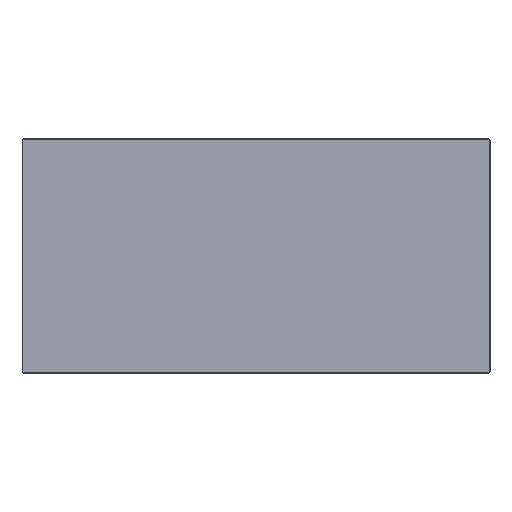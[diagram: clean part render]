
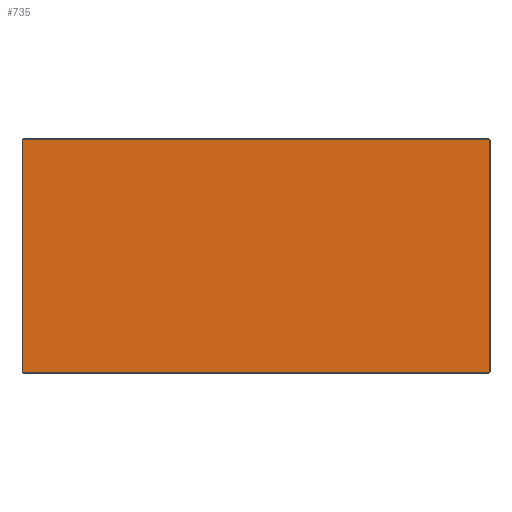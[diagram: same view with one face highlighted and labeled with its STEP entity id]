
A CAD part, top view. The second image highlights one B-rep face of the part: STEP entity #735.
In plain terms, the highlighted planar face has unit normal (0, 0, 1).
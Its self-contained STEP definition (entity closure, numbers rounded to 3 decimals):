
#450=CARTESIAN_POINT('',(-999.0,-495.,730.8));
#451=VERTEX_POINT('',#450);
#458=CARTESIAN_POINT('',(-999.,495.,730.8));
#459=VERTEX_POINT('',#458);
#460=CARTESIAN_POINT('',(-999.0,-495.,730.8));
#461=DIRECTION('',(0.0,1.0,0.0));
#462=VECTOR('',#461,990.);
#463=LINE('',#460,#462);
#464=EDGE_CURVE('',#451,#459,#463,.T.);
#481=CARTESIAN_POINT('',(-995.0,499.,730.8));
#482=VERTEX_POINT('',#481);
#491=CARTESIAN_POINT('',(-995.0,495.,730.8));
#492=DIRECTION('',(0.,0.,-1.));
#493=DIRECTION('',(-0.707,0.707,0.));
#494=AXIS2_PLACEMENT_3D('',#491,#492,#493);
#495=CIRCLE('',#494,4.);
#496=EDGE_CURVE('',#459,#482,#495,.T.);
#506=CARTESIAN_POINT('',(995.0,499.,730.8));
#507=VERTEX_POINT('',#506);
#516=CARTESIAN_POINT('',(-995.0,499.,730.8));
#517=DIRECTION('',(1.0,0.0,0.0));
#518=VECTOR('',#517,1990.0);
#519=LINE('',#516,#518);
#520=EDGE_CURVE('',#482,#507,#519,.T.);
#530=CARTESIAN_POINT('',(999.0,495.,730.8));
#531=VERTEX_POINT('',#530);
#540=CARTESIAN_POINT('',(995.0,495.,730.8));
#541=DIRECTION('',(0.,0.,-1.));
#542=DIRECTION('',(0.707,0.707,0.));
#543=AXIS2_PLACEMENT_3D('',#540,#541,#542);
#544=CIRCLE('',#543,4.);
#545=EDGE_CURVE('',#507,#531,#544,.T.);
#555=CARTESIAN_POINT('',(999.0,-495.,730.8));
#556=VERTEX_POINT('',#555);
#572=CARTESIAN_POINT('',(999.0,495.,730.8));
#573=DIRECTION('',(0.0,-1.0,0.0));
#574=VECTOR('',#573,990.);
#575=LINE('',#572,#574);
#576=EDGE_CURVE('',#531,#556,#575,.T.);
#586=CARTESIAN_POINT('',(995.0,-499.,730.8));
#587=VERTEX_POINT('',#586);
#604=CARTESIAN_POINT('',(995.0,-495.,730.8));
#605=DIRECTION('',(0.,0.,-1.));
#606=DIRECTION('',(0.707,-0.707,0.));
#607=AXIS2_PLACEMENT_3D('',#604,#605,#606);
#608=CIRCLE('',#607,4.);
#609=EDGE_CURVE('',#556,#587,#608,.T.);
#619=CARTESIAN_POINT('',(-995.0,-499.,730.8));
#620=VERTEX_POINT('',#619);
#636=CARTESIAN_POINT('',(995.0,-499.,730.8));
#637=DIRECTION('',(-1.0,0.0,0.0));
#638=VECTOR('',#637,1990.0);
#639=LINE('',#636,#638);
#640=EDGE_CURVE('',#587,#620,#639,.T.);
#659=CARTESIAN_POINT('',(-995.0,-495.,730.8));
#660=DIRECTION('',(0.,0.,-1.));
#661=DIRECTION('',(-0.707,-0.707,0.));
#662=AXIS2_PLACEMENT_3D('',#659,#660,#661);
#663=CIRCLE('',#662,4.);
#664=EDGE_CURVE('',#620,#451,#663,.T.);
#720=CARTESIAN_POINT('',(0.,0.,730.8));
#721=DIRECTION('',(0.0,0.0,1.0));
#722=DIRECTION('',(0.0,-1.0,0.0));
#723=AXIS2_PLACEMENT_3D('',#720,#721,#722);
#724=PLANE('',#723);
#725=ORIENTED_EDGE('',*,*,#464,.F.);
#726=ORIENTED_EDGE('',*,*,#664,.F.);
#727=ORIENTED_EDGE('',*,*,#640,.F.);
#728=ORIENTED_EDGE('',*,*,#609,.F.);
#729=ORIENTED_EDGE('',*,*,#576,.F.);
#730=ORIENTED_EDGE('',*,*,#545,.F.);
#731=ORIENTED_EDGE('',*,*,#520,.F.);
#732=ORIENTED_EDGE('',*,*,#496,.F.);
#733=EDGE_LOOP('',(#725,#726,#727,#728,#729,#730,#731,#732));
#734=FACE_OUTER_BOUND('',#733,.T.);
#735=ADVANCED_FACE('',(#734),#724,.T.);
